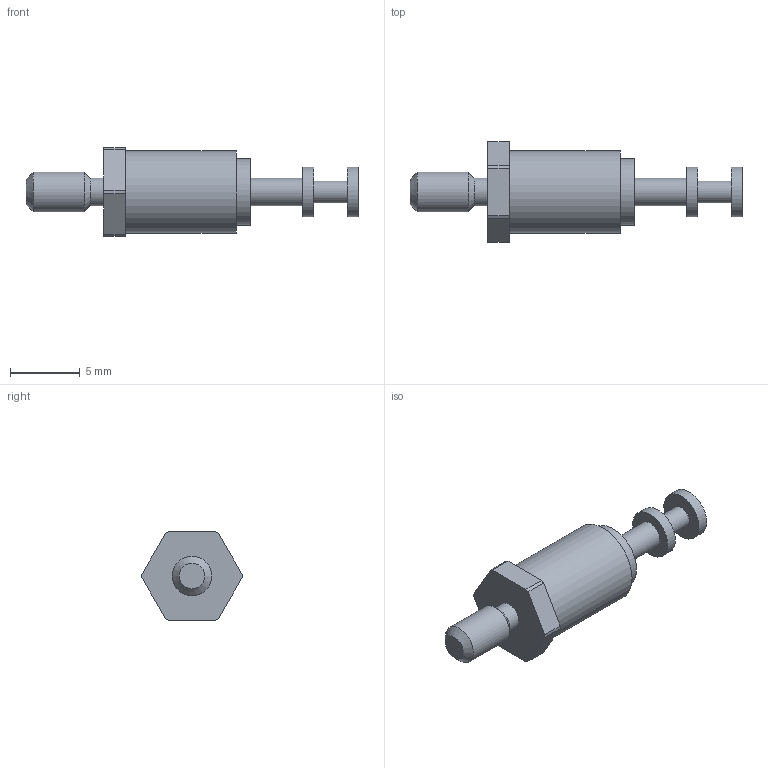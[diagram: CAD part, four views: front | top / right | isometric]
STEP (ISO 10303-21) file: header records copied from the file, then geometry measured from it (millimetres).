
FILE_DESCRIPTION(/* description */ (''),/* implementation_level */ '2;1');
FILE_NAME(/* name */ '\\Snap1\dwgs\Customer 3D Models\572\572-4810-01 Customer model.stp',/* time_stamp */ '2017-01-09T17:16:03+00:00',/* author */ ('paulk'),/* organization */ (''),/* preprocessor_version */ 'ST-DEVELOPER v15.2',/* originating_system */ 'Autodesk Inventor 2014',/* authorisation */ '');
FILE_SCHEMA (('CONFIG_CONTROL_DESIGN'));
Length unit declared in the file: millimetre
Products named in the file (1): 572-4810-01 Customer model
Bounding box: 23.82 x 7.2 x 6.35 mm (x, y, z)
Volume: 352.2 mm3; surface area: 397.1 mm2
Topology: 1 solids, 1 shells, 31 faces, 63 edges, 41 vertices
Faces by surface type: plane 15, cylinder 14, cone 2
Full cylindrical faces by diameter (mm): 1.575 x1, 1.981 x2, 2.844 x1, 3.556 x2, 4.775 x1, 5.893 x1
Entity records: 845 total; most frequent: DIRECTION 146, CARTESIAN_POINT 126, ORIENTED_EDGE 106, AXIS2_PLACEMENT_3D 61, EDGE_CURVE 53, EDGE_LOOP 48, VERTEX_POINT 41, STYLED_ITEM 32
